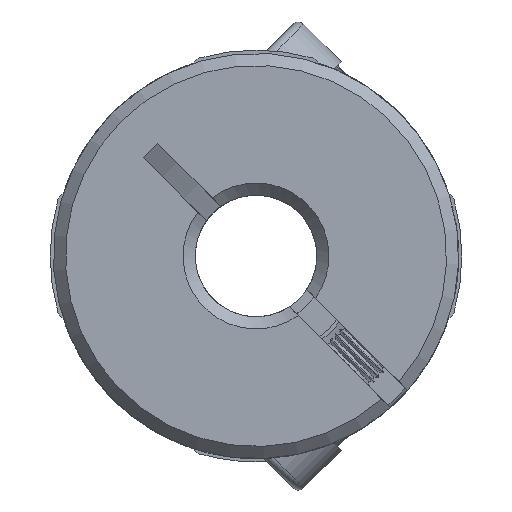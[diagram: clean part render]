
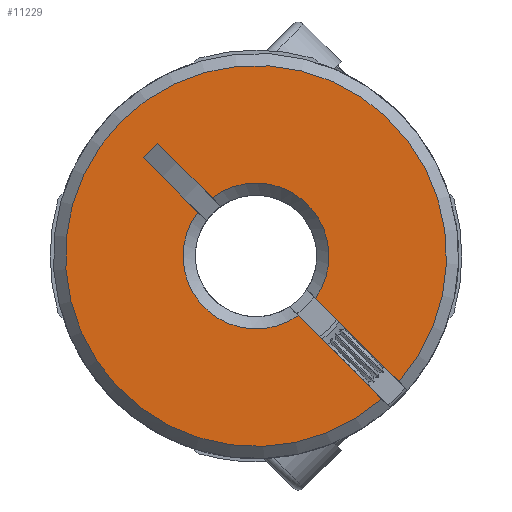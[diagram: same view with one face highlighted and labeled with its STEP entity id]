
A CAD part, front view. The second image highlights one B-rep face of the part: STEP entity #11229.
In plain terms, the highlighted planar face has unit normal (0, -1, 0).
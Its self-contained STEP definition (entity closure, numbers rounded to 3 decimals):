
#15 = VECTOR ( 'NONE', #7760, 1000. ) ;
#423 = CARTESIAN_POINT ( 'NONE',  ( -4.842, -12.6, 5.549 ) ) ;
#446 = ORIENTED_EDGE ( 'NONE', *, *, #12637, .T. ) ;
#547 = VERTEX_POINT ( 'NONE', #7755 ) ;
#557 = CARTESIAN_POINT ( 'NONE',  ( -5.549, -12.6, 4.842 ) ) ;
#685 = CARTESIAN_POINT ( 'NONE',  ( 5.657, -12.6, -4.95 ) ) ;
#802 = CARTESIAN_POINT ( 'NONE',  ( 342.528, -12.6, 364.579 ) ) ;
#940 = DIRECTION ( 'NONE',  ( 0.707, 0., -0.707 ) ) ;
#981 = CARTESIAN_POINT ( 'NONE',  ( -2.167, -12.6, 2.874 ) ) ;
#1399 = EDGE_CURVE ( 'NONE', #3083, #8059, #12210, .T. ) ;
#1416 = VECTOR ( 'NONE', #940, 1000. ) ;
#1427 = EDGE_CURVE ( 'NONE', #5450, #8059, #3008, .T. ) ;
#1437 = VERTEX_POINT ( 'NONE', #981 ) ;
#2119 = CARTESIAN_POINT ( 'NONE',  ( 0., -12.6, 0. ) ) ;
#2245 = VERTEX_POINT ( 'NONE', #6119 ) ;
#2275 = DIRECTION ( 'NONE',  ( 0.707, 0., -0.707 ) ) ;
#2310 = AXIS2_PLACEMENT_3D ( 'NONE', #4339, #11308, #2275 ) ;
#2674 = LINE ( 'NONE', #9353, #5521 ) ;
#2737 = LINE ( 'NONE', #685, #15 ) ;
#3008 = CIRCLE ( 'NONE', #7212, 3.6 ) ;
#3083 = VERTEX_POINT ( 'NONE', #557 ) ;
#3444 = AXIS2_PLACEMENT_3D ( 'NONE', #7906, #10987, #7858 ) ;
#3541 = EDGE_CURVE ( 'NONE', #2245, #12051, #11036, .T. ) ;
#4198 = LINE ( 'NONE', #12200, #10011 ) ;
#4339 = CARTESIAN_POINT ( 'NONE',  ( 0., -12.6, 0. ) ) ;
#4687 = ORIENTED_EDGE ( 'NONE', *, *, #1399, .F. ) ;
#4752 = DIRECTION ( 'NONE',  ( 0.707, 0., -0.707 ) ) ;
#4796 = EDGE_LOOP ( 'NONE', ( #7049, #446, #11778, #7045, #9946, #6729, #4687, #7913 ) ) ;
#5334 = DIRECTION ( 'NONE',  ( -0.707, 0., -0.707 ) ) ;
#5346 = VERTEX_POINT ( 'NONE', #423 ) ;
#5450 = VERTEX_POINT ( 'NONE', #5667 ) ;
#5521 = VECTOR ( 'NONE', #5334, 1000. ) ;
#5667 = CARTESIAN_POINT ( 'NONE',  ( 2.086, -12.6, -2.934 ) ) ;
#6013 = DIRECTION ( 'NONE',  ( 0.707, 0., -0.707 ) ) ;
#6119 = CARTESIAN_POINT ( 'NONE',  ( 7.058, -12.6, -6.209 ) ) ;
#6612 = EDGE_CURVE ( 'NONE', #2245, #547, #4198, .T. ) ;
#6729 = ORIENTED_EDGE ( 'NONE', *, *, #1427, .T. ) ;
#6754 = EDGE_CURVE ( 'NONE', #5346, #1437, #2737, .T. ) ;
#6873 = PLANE ( 'NONE',  #7828 ) ;
#7045 = ORIENTED_EDGE ( 'NONE', *, *, #3541, .T. ) ;
#7049 = ORIENTED_EDGE ( 'NONE', *, *, #6754, .T. ) ;
#7087 = DIRECTION ( 'NONE',  ( 0., 1., 0. ) ) ;
#7212 = AXIS2_PLACEMENT_3D ( 'NONE', #2119, #7087, #6013 ) ;
#7755 = CARTESIAN_POINT ( 'NONE',  ( 2.934, -12.6, -2.086 ) ) ;
#7760 = DIRECTION ( 'NONE',  ( 0.707, 0., -0.707 ) ) ;
#7828 = AXIS2_PLACEMENT_3D ( 'NONE', #802, #9951, #13067 ) ;
#7858 = DIRECTION ( 'NONE',  ( 0.707, 0., -0.707 ) ) ;
#7906 = CARTESIAN_POINT ( 'NONE',  ( 0., -12.6, 0. ) ) ;
#7913 = ORIENTED_EDGE ( 'NONE', *, *, #9359, .F. ) ;
#7966 = VECTOR ( 'NONE', #4752, 1000. ) ;
#8059 = VERTEX_POINT ( 'NONE', #8129 ) ;
#8129 = CARTESIAN_POINT ( 'NONE',  ( -2.874, -12.6, 2.167 ) ) ;
#8147 = CARTESIAN_POINT ( 'NONE',  ( 4.95, -12.6, -5.657 ) ) ;
#8708 = CARTESIAN_POINT ( 'NONE',  ( 6.209, -12.6, -7.058 ) ) ;
#9031 = DIRECTION ( 'NONE',  ( -0.707, 0., 0.707 ) ) ;
#9353 = CARTESIAN_POINT ( 'NONE',  ( -4.842, -12.6, 5.549 ) ) ;
#9359 = EDGE_CURVE ( 'NONE', #5346, #3083, #2674, .T. ) ;
#9946 = ORIENTED_EDGE ( 'NONE', *, *, #12552, .F. ) ;
#9951 = DIRECTION ( 'NONE',  ( 0., 1., 0. ) ) ;
#10011 = VECTOR ( 'NONE', #9031, 1000. ) ;
#10343 = CIRCLE ( 'NONE', #3444, 3.6 ) ;
#10662 = LINE ( 'NONE', #10815, #7966 ) ;
#10815 = CARTESIAN_POINT ( 'NONE',  ( 1.654, -12.6, -2.503 ) ) ;
#10987 = DIRECTION ( 'NONE',  ( 0., 1., 0. ) ) ;
#11036 = CIRCLE ( 'NONE', #2310, 9.4 ) ;
#11229 = ADVANCED_FACE ( 'NONE', ( #11667 ), #6873, .F. ) ;
#11308 = DIRECTION ( 'NONE',  ( 0., -1., 0. ) ) ;
#11667 = FACE_OUTER_BOUND ( 'NONE', #4796, .T. ) ;
#11778 = ORIENTED_EDGE ( 'NONE', *, *, #6612, .F. ) ;
#12051 = VERTEX_POINT ( 'NONE', #8708 ) ;
#12200 = CARTESIAN_POINT ( 'NONE',  ( 2.503, -12.6, -1.654 ) ) ;
#12210 = LINE ( 'NONE', #8147, #1416 ) ;
#12552 = EDGE_CURVE ( 'NONE', #5450, #12051, #10662, .T. ) ;
#12637 = EDGE_CURVE ( 'NONE', #1437, #547, #10343, .T. ) ;
#13067 = DIRECTION ( 'NONE',  ( 0.707, 0., -0.707 ) ) ;
